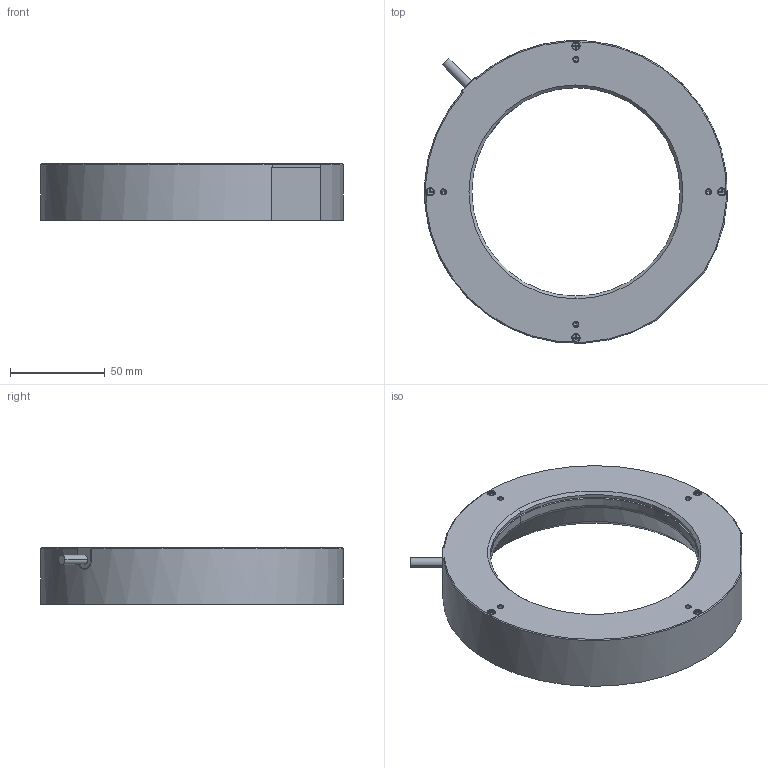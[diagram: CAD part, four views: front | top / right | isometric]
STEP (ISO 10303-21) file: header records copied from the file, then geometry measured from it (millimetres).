
FILE_DESCRIPTION((''),'2;1');
FILE_NAME('160-30','2024-03-29T18:00:28',('qiaoxuan5'),(''),'CREO PARAMETRIC BY PTC INC, 2020044','CREO PARAMETRIC BY PTC INC, 2020044','');
FILE_SCHEMA(('CONFIG_CONTROL_DESIGN'));
Length unit declared in the file: millimetre
Products named in the file (1): 160-30
Bounding box: 159.82 x 159.82 x 30 mm (x, y, z)
Volume: 174394.2 mm3; surface area: 73522.9 mm2
Topology: 1 solids, 9 shells, 464 faces, 1067 edges, 627 vertices
Faces by surface type: plane 244, cylinder 129, cone 62, torus 25, sphere 4
Entity records: 13494 total; most frequent: CARTESIAN_POINT 3016, DIRECTION 2208, ORIENTED_EDGE 2110, EDGE_CURVE 1055, AXIS2_PLACEMENT_3D 787, VECTOR 634, LINE 634, VERTEX_POINT 627
